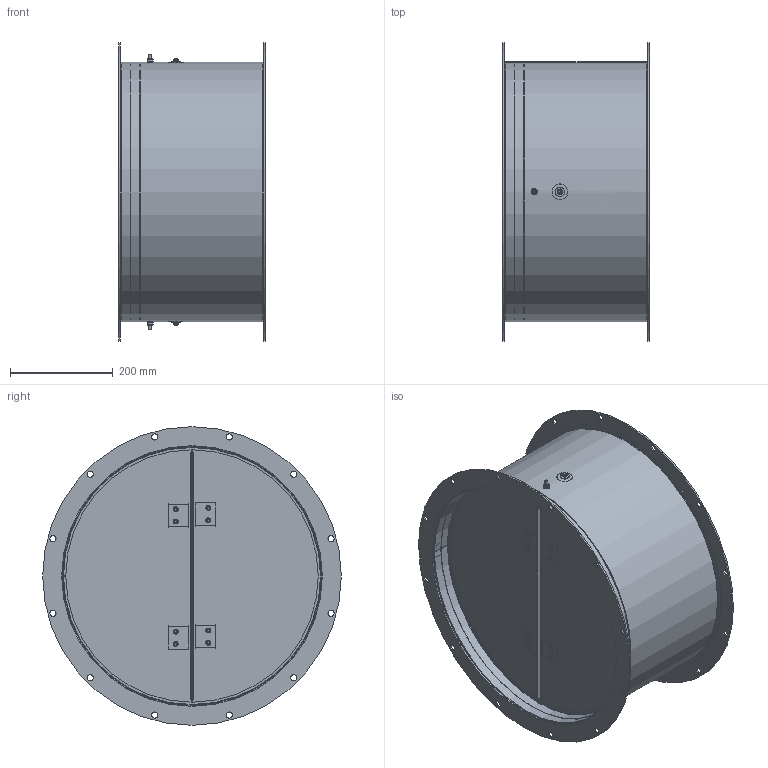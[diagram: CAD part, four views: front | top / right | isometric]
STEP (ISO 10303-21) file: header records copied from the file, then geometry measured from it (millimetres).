
FILE_DESCRIPTION(/* description */ ('Backdraft shutter KZD-710 SE'),/* implementation_level */ '2;1');
FILE_NAME(/* name */ 'Y:\VaultRobocze\Designs\2\0\04\900 560\2 004 900 560 1.stp',/* time_stamp */ '2018-03-30T10:36:39+02:00',/* author */ ('TomaszCie'),/* organization */ (''),/* preprocessor_version */ 'ST-DEVELOPER v16.13',/* originating_system */ 'Autodesk Inventor 2018',/* authorisation */ '');
FILE_SCHEMA (('AUTOMOTIVE_DESIGN { 1 0 10303 214 3 1 1 }'));
Length unit declared in the file: millimetre
Products named in the file (19): 2 004 900 560 1; DIN 6799 - 5; DIN 7337 - A4,8 x 8,5 x 3 BRALO; DIN 934 - M6; DIN 985 - M6; 2 004 900 361 1; 2 004 900 362 1; 2 004 901 560; 2 004 902 361; 2 004 901 561; 2 004 901 563; 2 004 901 562; 2 004 900 366; DIN 933 - M6  x 30; DIN 125 - A 6,4; Wibroizolator RFHT; DIN 9021 - 6,4; DIN 439 - M6; Sprężyna skrętna fi1 EN10270-
1 L=26mm, H=50mm D=fi6
Assembly tree (41 placements, depth 3):
  2 004 900 560 1
    DIN 6799 - 5  x2
    DIN 7337 - A4,8 x 8,5 x 3 BRALO  x8
    DIN 125 - A 6,4  x5
    DIN 985 - M6  x2
    DIN 934 - M6
    2 004 900 361 1
    2 004 900 362 1  x2
    2 004 901 560
      2 004 902 361  x2
      2 004 901 561
      2 004 901 563
      2 004 901 562
    2 004 900 366  x4
    DIN 933 - M6  x 30  x2
    Wibroizolator RFHT  x2
    DIN 9021 - 6,4  x2
    DIN 439 - M6  x2
    Sprężyna skrętna fi1 EN10270-
1 L=26mm, H=50mm D=fi6  x2
Bounding box: 285 x 581 x 581 mm (x, y, z)
Volume: 947957.2 mm3; surface area: 1774680.1 mm2
Topology: 44 solids, 44 shells, 580 faces, 1297 edges, 831 vertices
Faces by surface type: plane 293, cylinder 223, cone 40, torus 14, bspline 10
Full cylindrical faces by diameter (mm): 1 x4, 4.8 x8, 4.9 x8, 4.917 x5, 5 x2, 5.2 x8, 5.459 x2, 6 x5, 6.4 x7, 6.5 x10, 8.1 x2, 8.5 x2, 8.7 x2, 8.9 x2, 9.5 x8, 12 x29, 18 x2, 30 x2, 507 x2, 581 x2
Entity records: 10562 total; most frequent: CARTESIAN_POINT 4042, DIRECTION 1315, ORIENTED_EDGE 1024, AXIS2_PLACEMENT_3D 549, EDGE_CURVE 512, EDGE_LOOP 399, VERTEX_POINT 363, FACE_OUTER_BOUND 262
